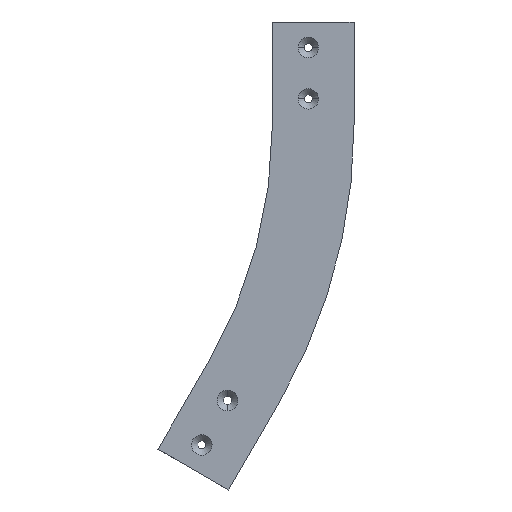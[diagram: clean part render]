
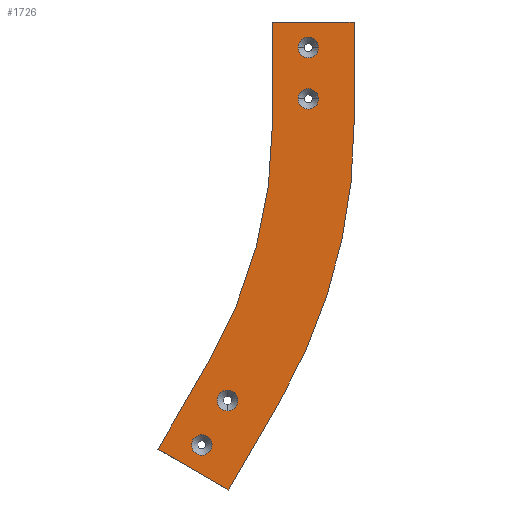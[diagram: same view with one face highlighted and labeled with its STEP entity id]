
A CAD part, left-side view. The second image highlights one B-rep face of the part: STEP entity #1726.
In plain terms, the highlighted planar face has unit normal (-1, 0, 0).
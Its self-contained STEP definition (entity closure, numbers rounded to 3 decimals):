
#57 = VERTEX_POINT ( 'NONE', #649 ) ;
#59 = VERTEX_POINT ( 'NONE', #647 ) ;
#61 = VERTEX_POINT ( 'NONE', #645 ) ;
#70 = VERTEX_POINT ( 'NONE', #643 ) ;
#82 = VERTEX_POINT ( 'NONE', #637 ) ;
#94 = VERTEX_POINT ( 'NONE', #634 ) ;
#103 = VERTEX_POINT ( 'NONE', #629 ) ;
#137 = VERTEX_POINT ( 'NONE', #621 ) ;
#142 = VERTEX_POINT ( 'NONE', #620 ) ;
#200 = VERTEX_POINT ( 'NONE', #608 ) ;
#446 = CARTESIAN_POINT ( 'NONE',  ( -35., 108.644, -422.552 ) ) ;
#450 = CARTESIAN_POINT ( 'NONE',  ( -35., 83.644, -359.251 ) ) ;
#453 = CARTESIAN_POINT ( 'NONE',  ( -35., -5.2, -25. ) ) ;
#460 = CARTESIAN_POINT ( 'NONE',  ( -35., 14.8, -75. ) ) ;
#466 = CARTESIAN_POINT ( 'NONE',  ( -35., 83.644, -379.251 ) ) ;
#468 = CARTESIAN_POINT ( 'NONE',  ( -35., -39.8, 0. ) ) ;
#608 = CARTESIAN_POINT ( 'NONE',  ( -35., 101.455, -330.1 ) ) ;
#620 = CARTESIAN_POINT ( 'NONE',  ( -35., -39.8, -100. ) ) ;
#621 = CARTESIAN_POINT ( 'NONE',  ( -35., 14.8, -25. ) ) ;
#629 = CARTESIAN_POINT ( 'NONE',  ( -35., 108.644, -402.552 ) ) ;
#634 = CARTESIAN_POINT ( 'NONE',  ( -35., 39.8, -100. ) ) ;
#637 = CARTESIAN_POINT ( 'NONE',  ( -35., 82.519, -456.503 ) ) ;
#643 = CARTESIAN_POINT ( 'NONE',  ( -35., -5.2, -75. ) ) ;
#645 = CARTESIAN_POINT ( 'NONE',  ( -35., 151.455, -416.703 ) ) ;
#647 = CARTESIAN_POINT ( 'NONE',  ( -35., 39.8, 0. ) ) ;
#649 = CARTESIAN_POINT ( 'NONE',  ( -35., 32.519, -369.9 ) ) ;
#754 = VERTEX_POINT ( 'NONE', #468 ) ;
#756 = VERTEX_POINT ( 'NONE', #466 ) ;
#762 = VERTEX_POINT ( 'NONE', #460 ) ;
#769 = VERTEX_POINT ( 'NONE', #453 ) ;
#772 = VERTEX_POINT ( 'NONE', #450 ) ;
#776 = VERTEX_POINT ( 'NONE', #446 ) ;
#930 = DIRECTION ( 'NONE',  ( 0., -0.866, -0.5 ) ) ;
#931 = CARTESIAN_POINT ( 'NONE',  ( -35., 151.455, -416.703 ) ) ;
#936 = DIRECTION ( 'NONE',  ( 0., 0., 1. ) ) ;
#937 = CARTESIAN_POINT ( 'NONE',  ( -35., 39.8, -100. ) ) ;
#939 = DIRECTION ( 'NONE',  ( 0., -1., 0. ) ) ;
#940 = CARTESIAN_POINT ( 'NONE',  ( -35., 39.8, 0. ) ) ;
#941 = DIRECTION ( 'NONE',  ( 0., -1., 0. ) ) ;
#943 = DIRECTION ( 'NONE',  ( 1., 0., 0. ) ) ;
#945 = CARTESIAN_POINT ( 'NONE',  ( -35., 108.644, -412.552 ) ) ;
#946 = DIRECTION ( 'NONE',  ( 0., -1., 0. ) ) ;
#947 = DIRECTION ( 'NONE',  ( 1., 0., 0. ) ) ;
#949 = CARTESIAN_POINT ( 'NONE',  ( -35., 83.644, -369.251 ) ) ;
#950 = DIRECTION ( 'NONE',  ( 0., -1., 0. ) ) ;
#951 = DIRECTION ( 'NONE',  ( 1., 0., 0. ) ) ;
#952 = CARTESIAN_POINT ( 'NONE',  ( -35., 4.8, -75. ) ) ;
#953 = DIRECTION ( 'NONE',  ( 0., -1., 0. ) ) ;
#954 = DIRECTION ( 'NONE',  ( 1., 0., 0. ) ) ;
#956 = CARTESIAN_POINT ( 'NONE',  ( -35., 4.8, -25. ) ) ;
#959 = DIRECTION ( 'NONE',  ( 0., 0., 1. ) ) ;
#960 = CARTESIAN_POINT ( 'NONE',  ( -35., -39.8, -100. ) ) ;
#971 = DIRECTION ( 'NONE',  ( 0., 0., -1. ) ) ;
#973 = DIRECTION ( 'NONE',  ( 1., 0., 0. ) ) ;
#974 = CARTESIAN_POINT ( 'NONE',  ( -35., 500., -100. ) ) ;
#1064 = DIRECTION ( 'NONE',  ( 0., 0., -1. ) ) ;
#1065 = DIRECTION ( 'NONE',  ( 1., 0., 0. ) ) ;
#1066 = CARTESIAN_POINT ( 'NONE',  ( -35., 500., -100. ) ) ;
#1082 = DIRECTION ( 'NONE',  ( 0., 0.5, -0.866 ) ) ;
#1083 = CARTESIAN_POINT ( 'NONE',  ( -35., 32.519, -369.9 ) ) ;
#1183 = DIRECTION ( 'NONE',  ( 0., 0.5, -0.866 ) ) ;
#1184 = CARTESIAN_POINT ( 'NONE',  ( -35., 101.455, -330.1 ) ) ;
#1251 = DIRECTION ( 'NONE',  ( 0., -1., 0. ) ) ;
#1252 = DIRECTION ( 'NONE',  ( 1., 0., 0. ) ) ;
#1254 = CARTESIAN_POINT ( 'NONE',  ( -35., 4.8, -25. ) ) ;
#1267 = DIRECTION ( 'NONE',  ( 0., -1., 0. ) ) ;
#1270 = DIRECTION ( 'NONE',  ( 1., 0., 0. ) ) ;
#1271 = CARTESIAN_POINT ( 'NONE',  ( -35., 4.8, -75. ) ) ;
#1284 = DIRECTION ( 'NONE',  ( 0., -1., 0. ) ) ;
#1285 = DIRECTION ( 'NONE',  ( 1., 0., 0. ) ) ;
#1286 = CARTESIAN_POINT ( 'NONE',  ( -35., 83.644, -369.251 ) ) ;
#1303 = DIRECTION ( 'NONE',  ( 0., -1., 0. ) ) ;
#1305 = DIRECTION ( 'NONE',  ( 1., 0., 0. ) ) ;
#1306 = CARTESIAN_POINT ( 'NONE',  ( -35., 108.644, -412.552 ) ) ;
#1595 = DIRECTION ( 'NONE',  ( 0., -1., 0. ) ) ;
#1596 = DIRECTION ( 'NONE',  ( -1., 0., 0. ) ) ;
#1597 = CARTESIAN_POINT ( 'NONE',  ( -35., 39.8, -100. ) ) ;
#1602 = PLANE ( 'NONE',  #2390 ) ;
#1726 = ADVANCED_FACE ( 'NONE', ( #2936, #2935, #2934, #2933, #2932 ), #1602, .T. ) ;
#1879 = VECTOR ( 'NONE', #930, 1000. ) ;
#1880 = LINE ( 'NONE', #931, #1879 ) ;
#1883 = VECTOR ( 'NONE', #936, 1000. ) ;
#1884 = LINE ( 'NONE', #937, #1883 ) ;
#1885 = VECTOR ( 'NONE', #939, 1000. ) ;
#1886 = CIRCLE ( 'NONE', #2424, 10. ) ;
#1887 = LINE ( 'NONE', #940, #1885 ) ;
#1888 = CIRCLE ( 'NONE', #2445, 10. ) ;
#1890 = CIRCLE ( 'NONE', #2457, 10. ) ;
#1891 = CIRCLE ( 'NONE', #2599, 10. ) ;
#1894 = VECTOR ( 'NONE', #959, 1000. ) ;
#1895 = LINE ( 'NONE', #960, #1894 ) ;
#1899 = CIRCLE ( 'NONE', #2270, 539.8 ) ;
#1934 = CIRCLE ( 'NONE', #2296, 460.2 ) ;
#1945 = VECTOR ( 'NONE', #1082, 1000. ) ;
#1948 = LINE ( 'NONE', #1083, #1945 ) ;
#2026 = VECTOR ( 'NONE', #1183, 1000. ) ;
#2027 = LINE ( 'NONE', #1184, #2026 ) ;
#2072 = CIRCLE ( 'NONE', #2308, 10. ) ;
#2078 = CIRCLE ( 'NONE', #2311, 10. ) ;
#2085 = CIRCLE ( 'NONE', #2315, 10. ) ;
#2092 = CIRCLE ( 'NONE', #2318, 10. ) ;
#2270 = AXIS2_PLACEMENT_3D ( 'NONE', #974, #973, #971 ) ;
#2296 = AXIS2_PLACEMENT_3D ( 'NONE', #1066, #1065, #1064 ) ;
#2308 = AXIS2_PLACEMENT_3D ( 'NONE', #1254, #1252, #1251 ) ;
#2311 = AXIS2_PLACEMENT_3D ( 'NONE', #1271, #1270, #1267 ) ;
#2315 = AXIS2_PLACEMENT_3D ( 'NONE', #1286, #1285, #1284 ) ;
#2318 = AXIS2_PLACEMENT_3D ( 'NONE', #1306, #1305, #1303 ) ;
#2390 = AXIS2_PLACEMENT_3D ( 'NONE', #1597, #1596, #1595 ) ;
#2424 = AXIS2_PLACEMENT_3D ( 'NONE', #945, #943, #941 ) ;
#2445 = AXIS2_PLACEMENT_3D ( 'NONE', #949, #947, #946 ) ;
#2457 = AXIS2_PLACEMENT_3D ( 'NONE', #952, #951, #950 ) ;
#2599 = AXIS2_PLACEMENT_3D ( 'NONE', #956, #954, #953 ) ;
#2659 = EDGE_CURVE ( 'NONE', #103, #776, #2092, .T. ) ;
#2664 = EDGE_CURVE ( 'NONE', #772, #756, #2085, .T. ) ;
#2669 = EDGE_CURVE ( 'NONE', #70, #762, #2078, .T. ) ;
#2673 = EDGE_CURVE ( 'NONE', #769, #137, #2072, .T. ) ;
#2693 = EDGE_CURVE ( 'NONE', #200, #61, #2027, .T. ) ;
#2728 = EDGE_CURVE ( 'NONE', #57, #82, #1948, .T. ) ;
#2733 = EDGE_CURVE ( 'NONE', #94, #200, #1934, .T. ) ;
#2759 = EDGE_CURVE ( 'NONE', #142, #57, #1899, .T. ) ;
#2762 = EDGE_CURVE ( 'NONE', #142, #754, #1895, .T. ) ;
#2764 = EDGE_CURVE ( 'NONE', #137, #769, #1891, .T. ) ;
#2765 = EDGE_CURVE ( 'NONE', #762, #70, #1890, .T. ) ;
#2766 = EDGE_CURVE ( 'NONE', #756, #772, #1888, .T. ) ;
#2767 = EDGE_CURVE ( 'NONE', #776, #103, #1886, .T. ) ;
#2768 = EDGE_CURVE ( 'NONE', #59, #754, #1887, .T. ) ;
#2769 = EDGE_CURVE ( 'NONE', #94, #59, #1884, .T. ) ;
#2771 = EDGE_CURVE ( 'NONE', #61, #82, #1880, .T. ) ;
#2932 = FACE_OUTER_BOUND ( 'NONE', #3772, .T. ) ;
#2933 = FACE_BOUND ( 'NONE', #3768, .T. ) ;
#2934 = FACE_BOUND ( 'NONE', #3782, .T. ) ;
#2935 = FACE_BOUND ( 'NONE', #3846, .T. ) ;
#2936 = FACE_BOUND ( 'NONE', #3830, .T. ) ;
#3550 = ORIENTED_EDGE ( 'NONE', *, *, #2673, .T. ) ;
#3551 = ORIENTED_EDGE ( 'NONE', *, *, #2764, .T. ) ;
#3552 = ORIENTED_EDGE ( 'NONE', *, *, #2669, .T. ) ;
#3553 = ORIENTED_EDGE ( 'NONE', *, *, #2765, .T. ) ;
#3554 = ORIENTED_EDGE ( 'NONE', *, *, #2664, .T. ) ;
#3555 = ORIENTED_EDGE ( 'NONE', *, *, #2766, .T. ) ;
#3556 = ORIENTED_EDGE ( 'NONE', *, *, #2659, .T. ) ;
#3557 = ORIENTED_EDGE ( 'NONE', *, *, #2767, .T. ) ;
#3558 = ORIENTED_EDGE ( 'NONE', *, *, #2768, .F. ) ;
#3559 = ORIENTED_EDGE ( 'NONE', *, *, #2769, .F. ) ;
#3560 = ORIENTED_EDGE ( 'NONE', *, *, #2733, .T. ) ;
#3561 = ORIENTED_EDGE ( 'NONE', *, *, #2693, .T. ) ;
#3562 = ORIENTED_EDGE ( 'NONE', *, *, #2771, .T. ) ;
#3563 = ORIENTED_EDGE ( 'NONE', *, *, #2728, .F. ) ;
#3564 = ORIENTED_EDGE ( 'NONE', *, *, #2759, .F. ) ;
#3565 = ORIENTED_EDGE ( 'NONE', *, *, #2762, .T. ) ;
#3768 = EDGE_LOOP ( 'NONE', ( #3556, #3557 ) ) ;
#3772 = EDGE_LOOP ( 'NONE', ( #3558, #3559, #3560, #3561, #3562, #3563, #3564, #3565 ) ) ;
#3782 = EDGE_LOOP ( 'NONE', ( #3554, #3555 ) ) ;
#3830 = EDGE_LOOP ( 'NONE', ( #3550, #3551 ) ) ;
#3846 = EDGE_LOOP ( 'NONE', ( #3552, #3553 ) ) ;
